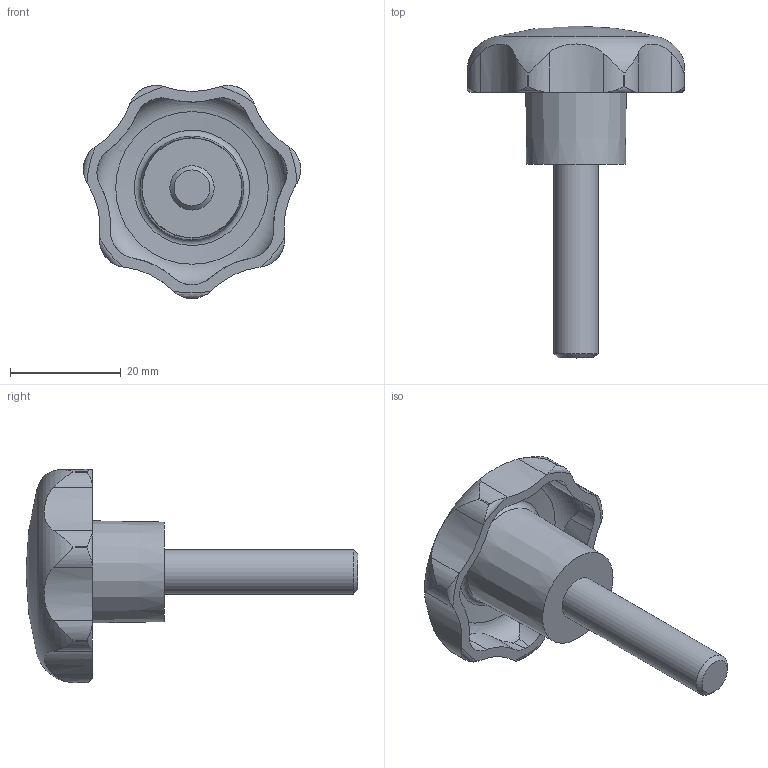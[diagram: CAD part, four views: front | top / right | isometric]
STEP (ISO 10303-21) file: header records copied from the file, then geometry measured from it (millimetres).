
FILE_DESCRIPTION( ( 'STEP AP203' ), '1' );
FILE_NAME( 'C:/Temp/Ganter_Step_05_03_2020/data/2_2/gn_6336_4/gn_6336_4_st/Star knob GN 6336.4-ST-40-M8-35.stp', '2020-03-05T12:07:29', ( 'License CC BY-ND 4.0' ), ( 'CADENAS' ), ' ', 'PARTsolutions', ' ' );
FILE_SCHEMA( ( 'CONFIG_CONTROL_DESIGN' ) );
Length unit declared in the file: millimetre
Products named in the file (1): _Star knob GN 6336.4-ST-40-M8-35
Bounding box: 39.24 x 60 x 38.52 mm (x, y, z)
Volume: 12564.4 mm3; surface area: 5763.2 mm2
Topology: 1 solids, 1 shells, 74 faces, 209 edges, 138 vertices
Faces by surface type: cylinder 43, torus 17, cone 10, plane 3, sphere 1
Full cylindrical faces by diameter (mm): 8 x1
Entity records: 3288 total; most frequent: CARTESIAN_POINT 1437, ORIENTED_EDGE 394, DIRECTION 362, EDGE_CURVE 197, AXIS2_PLACEMENT_3D 160, VERTEX_POINT 135, CIRCLE 85, EDGE_LOOP 83
